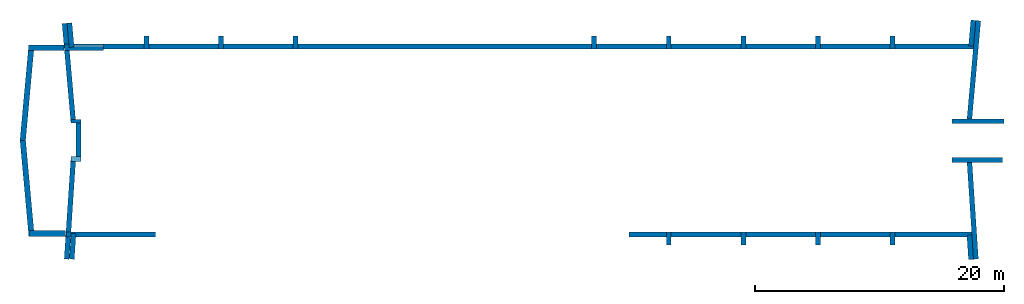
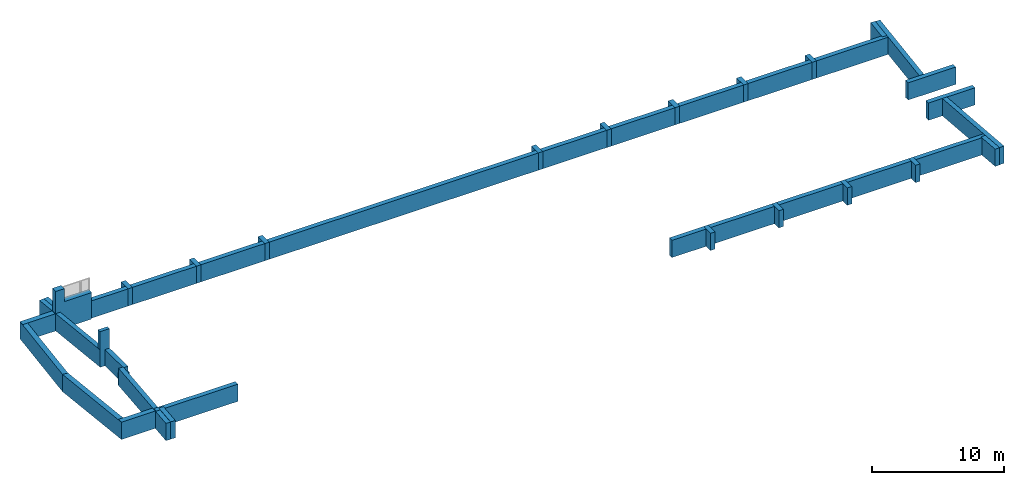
# One storey, part 1 of 2: 34 walls, 1 opening.
"""IFC2X3 building model written with IfcOpenShell, lengths in millimetres."""

from ifc_helpers import new_model, entity, si_unit, converted_unit, money_unit, direction, frame, origin_with_axes, place, context, subcontext, project, spatial, polyline, outline, extrude, material, layer, layer_set, layer_usage, type_object, element, save


model = new_model("IFC2X3")

# Units and contexts
model_context = context("Model", 3, precision=1e-05, world=origin_with_axes(), true_north=direction((0.0, 1.0)))
body_context = subcontext(model_context, "Body", "Model", "MODEL_VIEW")
ifc_project = project(units=[si_unit("LENGTHUNIT", "METRE", prefix="MILLI"), si_unit("AREAUNIT", "SQUARE_METRE"), si_unit("VOLUMEUNIT", "CUBIC_METRE"), converted_unit("PLANEANGLEUNIT", "DEGREE", entity("IfcPlaneAngleMeasure", 0.0174532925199), si_unit("PLANEANGLEUNIT", "RADIAN"), dimensions=[0, 0, 0, 0, 0, 0, 0]), si_unit("SOLIDANGLEUNIT", "STERADIAN"), money_unit("USD"), converted_unit("TIMEUNIT", "Year", entity("IfcTimeMeasure", 31556926.0), si_unit("TIMEUNIT", "SECOND"), dimensions=[0, 0, 0, 0, 0, 0, 0]), si_unit("MASSUNIT", "GRAM"), si_unit("THERMODYNAMICTEMPERATUREUNIT", "DEGREE_CELSIUS"), si_unit("LUMINOUSINTENSITYUNIT", "LUMEN")], contexts=[model_context])

# Site, building, storey
site_placement = place(None, origin_with_axes())
site = spatial("IfcSite", under=ifc_project, at=site_placement, Name="Site", CompositionType="ELEMENT")
building_placement = place(site_placement, origin_with_axes())
building = spatial("IfcBuilding", under=site, at=building_placement, Name="Building", CompositionType="ELEMENT")
storey_placement = place(building_placement, frame((0.0, 0.0, -5000.0), z_axis=(0.0, 0.0, 1.0), x_axis=(1.0, 0.0, 0.0)))
storey = spatial("IfcBuildingStorey", under=building, at=storey_placement, Name="Sokkel", CompositionType="ELEMENT", Elevation=-5000.0)

# Walls
ifc_material_1 = material(Name="Olemasolevad seinad tellis, uus viimistlus")
ifc_layer_1 = layer(ifc_material_1, 400.0, ventilated="UNKNOWN")
ifc_layer_set_1 = layer_set([ifc_layer_1], Name="Olemasolevad seinad tellis, uus viimistlus 400")
ifc_layer_usage_1 = layer_usage(ifc_layer_set_1, "AXIS2", "POSITIVE", 0.0)
wall_type_1 = type_object("IfcWallType", Name="Olemasolevad seinad tellis, uus viimistlus 400", PredefinedType="NOTDEFINED")
wall_1_placement = place(storey_placement, frame((67.0426161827, -5039.6041088, 0.0), z_axis=(0.0, 0.0, 1.0), x_axis=(0.0, 1.0, 0.0)))
element("IfcWallStandardCase", 1, at=wall_1_placement, inside=storey, type_object=wall_type_1, material=ifc_layer_usage_1, Name="VS1", context=body_context, shape_type="SweptSolid", body=[
    extrude(outline(polyline([(0.0, 0.0), (1057.40204125, 0.0), (1057.40204125, 400.0), (0.0, 400.0), (0.0, 0.0)])), origin_with_axes(), (0.0, 0.0, 1.0), 1600.0),
])
ifc_layer_usage_2 = layer_usage(ifc_layer_set_1, "AXIS2", "POSITIVE", 0.0)
wall_2_placement = place(storey_placement, frame((-47932.9573838, -5039.6041088, 0.0), z_axis=(0.0, 0.0, 1.0), x_axis=(0.0, 1.0, 0.0)))
element("IfcWallStandardCase", 2, at=wall_2_placement, inside=storey, type_object=wall_type_1, material=ifc_layer_usage_2, Name="VS1", context=body_context, shape_type="SweptSolid", body=[
    extrude(outline(polyline([(0.0, 0.0), (1057.40204125, 0.0), (1057.40204125, 400.0), (0.0, 400.0), (0.0, 0.0)])), origin_with_axes(), (0.0, 0.0, 1.0), 1600.0),
])
ifc_layer_usage_3 = layer_usage(ifc_layer_set_1, "AXIS2", "POSITIVE", 0.0)
wall_3_placement = place(storey_placement, frame((6067.04261618, -20796.6419407, 0.0), z_axis=(0.0, 0.0, 1.0), x_axis=(0.0, 1.0, 0.0)))
element("IfcWallStandardCase", 3, at=wall_3_placement, inside=storey, type_object=wall_type_1, material=ifc_layer_usage_3, Name="VS1", context=body_context, shape_type="SweptSolid", body=[
    extrude(outline(polyline([(0.0, 0.0), (1057.76625064, 0.0), (1057.76625064, 400.0), (0.0, 400.0), (0.0, 0.0)])), origin_with_axes(), (0.0, 0.0, 1.0), 1600.0),
])
ifc_layer_usage_4 = layer_usage(ifc_layer_set_1, "AXIS2", "POSITIVE", 0.0)
wall_4_placement = place(storey_placement, frame((-5932.95738382, -20796.6419407, 0.0), z_axis=(0.0, 0.0, 1.0), x_axis=(0.0, 1.0, 0.0)))
element("IfcWallStandardCase", 4, at=wall_4_placement, inside=storey, type_object=wall_type_1, material=ifc_layer_usage_4, Name="VS1", context=body_context, shape_type="SweptSolid", body=[
    extrude(outline(polyline([(0.0, 0.0), (1057.76625064, 0.0), (1057.76625064, 400.0), (0.0, 400.0), (0.0, 0.0)])), origin_with_axes(), (0.0, 0.0, 1.0), 1600.0),
])
ifc_layer_usage_5 = layer_usage(ifc_layer_set_1, "AXIS2", "POSITIVE", 0.0)
wall_5_placement = place(storey_placement, frame((67.0426161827, -20796.6419407, 0.0), z_axis=(0.0, 0.0, 1.0), x_axis=(0.0, 1.0, 0.0)))
element("IfcWallStandardCase", 5, at=wall_5_placement, inside=storey, type_object=wall_type_1, material=ifc_layer_usage_5, Name="VS1", context=body_context, shape_type="SweptSolid", body=[
    extrude(outline(polyline([(0.0, 0.0), (1057.76625064, 0.0), (1057.76625064, 400.0), (0.0, 400.0), (0.0, 0.0)])), origin_with_axes(), (0.0, 0.0, 1.0), 1600.0),
])
ifc_layer_usage_6 = layer_usage(ifc_layer_set_1, "AXIS2", "POSITIVE", 0.0)
wall_6_placement = place(storey_placement, frame((-5932.95738382, -5039.6041088, 0.0), z_axis=(0.0, 0.0, 1.0), x_axis=(0.0, 1.0, 0.0)))
element("IfcWallStandardCase", 6, at=wall_6_placement, inside=storey, type_object=wall_type_1, material=ifc_layer_usage_6, Name="VS1", context=body_context, shape_type="SweptSolid", body=[
    extrude(outline(polyline([(0.0, 0.0), (1057.40204125, 0.0), (1057.40204125, 400.0), (0.0, 400.0), (0.0, 0.0)])), origin_with_axes(), (0.0, 0.0, 1.0), 1600.0),
])
ifc_layer_usage_7 = layer_usage(ifc_layer_set_1, "AXIS2", "POSITIVE", 0.0)
wall_7_placement = place(storey_placement, frame((12067.0426162, -20796.6419407, 0.0), z_axis=(0.0, 0.0, 1.0), x_axis=(0.0, 1.0, 0.0)))
element("IfcWallStandardCase", 7, at=wall_7_placement, inside=storey, type_object=wall_type_1, material=ifc_layer_usage_7, Name="VS1", context=body_context, shape_type="SweptSolid", body=[
    extrude(outline(polyline([(0.0, 0.0), (1057.76625064, 0.0), (1057.76625064, 400.0), (0.0, 400.0), (0.0, 0.0)])), origin_with_axes(), (0.0, 0.0, 1.0), 1600.0),
])
ifc_layer_usage_8 = layer_usage(ifc_layer_set_1, "AXIS2", "POSITIVE", 0.0)
wall_8_placement = place(storey_placement, frame((6067.04261618, -5039.6041088, 0.0), z_axis=(0.0, 0.0, 1.0), x_axis=(0.0, 1.0, 0.0)))
element("IfcWallStandardCase", 8, at=wall_8_placement, inside=storey, type_object=wall_type_1, material=ifc_layer_usage_8, Name="VS1", context=body_context, shape_type="SweptSolid", body=[
    extrude(outline(polyline([(0.0, 0.0), (1057.40204125, 0.0), (1057.40204125, 400.0), (0.0, 400.0), (0.0, 0.0)])), origin_with_axes(), (0.0, 0.0, 1.0), 1600.0),
])
ifc_layer_usage_9 = layer_usage(ifc_layer_set_1, "AXIS2", "POSITIVE", 0.0)
wall_9_placement = place(storey_placement, frame((12067.0426162, -5039.6041088, 0.0), z_axis=(0.0, 0.0, 1.0), x_axis=(0.0, 1.0, 0.0)))
element("IfcWallStandardCase", 9, at=wall_9_placement, inside=storey, type_object=wall_type_1, material=ifc_layer_usage_9, Name="VS1", context=body_context, shape_type="SweptSolid", body=[
    extrude(outline(polyline([(0.0, 0.0), (1057.40204125, 0.0), (1057.40204125, 400.0), (0.0, 400.0), (0.0, 0.0)])), origin_with_axes(), (0.0, 0.0, 1.0), 1600.0),
])
ifc_layer_usage_10 = layer_usage(ifc_layer_set_1, "AXIS2", "POSITIVE", 0.0)
wall_10_placement = place(storey_placement, frame((-54209.8419994, -13787.3375674, 0.0), z_axis=(0.0, 0.0, 1.0), x_axis=(-0.0663534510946, -0.997796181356, 0.0)))
element("IfcWallStandardCase", 10, at=wall_10_placement, inside=storey, type_object=wall_type_1, material=ifc_layer_usage_10, Name="SS1", context=body_context, shape_type="SweptSolid", body=[
    extrude(outline(polyline([(0.0, 0.0), (8146.79169702, 0.0), (8146.79169702, 400.0), (0.0, 400.0), (0.0, 0.0)])), origin_with_axes(), (0.0, 0.0, 1.0), 1600.0),
])
ifc_layer_usage_11 = layer_usage(ifc_layer_set_1, "AXIS2", "POSITIVE", 0.0)
wall_11_placement = place(storey_placement, frame((17841.3876618, -20010.8935182, 0.0), z_axis=(0.0, 0.0, 1.0), x_axis=(0.0663534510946, -0.997796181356, 0.0)))
element("IfcWallStandardCase", 11, at=wall_11_placement, inside=storey, type_object=wall_type_1, material=ifc_layer_usage_11, Name="VS1", context=body_context, shape_type="SweptSolid", body=[
    extrude(outline(polyline([(0.0, 0.0), (1962.46339605, 0.0), (1962.46339605, 400.0), (0.0, 400.0), (0.0, 0.0)])), origin_with_axes(), (0.0, 0.0, 1.0), 1600.0),
])
ifc_layer_usage_12 = layer_usage(ifc_layer_set_1, "AXIS2", "POSITIVE", 0.0)
wall_12_placement = place(storey_placement, frame((-11932.9573838, -5039.6041088, 0.0), z_axis=(0.0, 0.0, 1.0), x_axis=(0.0, 1.0, 0.0)))
element("IfcWallStandardCase", 12, at=wall_12_placement, inside=storey, type_object=wall_type_1, material=ifc_layer_usage_12, Name="VS1", context=body_context, shape_type="SweptSolid", body=[
    extrude(outline(polyline([(0.0, 0.0), (1057.40204125, 0.0), (1057.40204125, 400.0), (0.0, 400.0), (0.0, 0.0)])), origin_with_axes(), (0.0, 0.0, 1.0), 1600.0),
])
ifc_layer_usage_13 = layer_usage(ifc_layer_set_1, "AXIS2", "POSITIVE", -400.0)
wall_13_placement = place(storey_placement, frame((-54346.8651468, -4903.23671069, 0.0), z_axis=(0.0, 0.0, 1.0), x_axis=(-0.0906330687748, 0.995884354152, 0.0)))
element("IfcWallStandardCase", 13, at=wall_13_placement, inside=storey, type_object=wall_type_1, material=ifc_layer_usage_13, Name="SS1", context=body_context, shape_type="SweptSolid", body=[
    extrude(outline(polyline([(0.0, -400.0), (1959.02298988, -400.0), (1959.02298988, 0.0), (0.0, 0.0), (0.0, -400.0)])), origin_with_axes(), (0.0, 0.0, 1.0), 1600.0),
])
ifc_layer_usage_14 = layer_usage(ifc_layer_set_1, "AXIS2", "POSITIVE", -400.0)
wall_14_placement = place(storey_placement, frame((-53392.226831, -10997.6526712, 0.0), z_axis=(0.0, 0.0, 1.0), x_axis=(0.0, -1.0, 0.0)))
element("IfcWallStandardCase", 14, at=wall_14_placement, inside=storey, type_object=wall_type_1, material=ifc_layer_usage_14, Name="SS1", context=body_context, shape_type="SweptSolid", body=[
    extrude(outline(polyline([(0.0, -400.0), (2789.68489615, -400.0), (2789.68489615, 0.0), (0.0, 0.0), (0.0, -400.0)])), origin_with_axes(), (0.0, 0.0, 1.0), 1500.0),
])
ifc_layer_usage_15 = layer_usage(ifc_layer_set_1, "AXIS2", "POSITIVE", 0.0)
wall_15_placement = place(storey_placement, frame((-35932.9573838, -5039.6041088, 0.0), z_axis=(0.0, 0.0, 1.0), x_axis=(0.0, 1.0, 0.0)))
element("IfcWallStandardCase", 15, at=wall_15_placement, inside=storey, type_object=wall_type_1, material=ifc_layer_usage_15, Name="VS1", context=body_context, shape_type="SweptSolid", body=[
    extrude(outline(polyline([(0.0, 0.0), (1057.40204125, 0.0), (1057.40204125, 400.0), (0.0, 400.0), (0.0, 0.0)])), origin_with_axes(), (0.0, 0.0, 1.0), 1600.0),
])
ifc_layer_usage_16 = layer_usage(ifc_layer_set_1, "AXIS2", "POSITIVE", -400.0)
wall_16_placement = place(storey_placement, frame((-54209.4090551, -10997.6526712, 0.0), z_axis=(0.0, 0.0, 1.0), x_axis=(-0.088511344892, 0.996075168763, 0.0)))
element("IfcWallStandardCase", 16, at=wall_16_placement, inside=storey, type_object=wall_type_1, material=ifc_layer_usage_16, Name="SS1", context=body_context, shape_type="SweptSolid", body=[
    extrude(outline(polyline([(0.0, -400.0), (8039.47702976, -400.0), (8039.47702976, 0.0), (0.0, 0.0), (0.0, -400.0)])), origin_with_axes(), (0.0, 0.0, 1.0), 1600.0),
])
ifc_layer_usage_17 = layer_usage(ifc_layer_set_1, "AXIS2", "POSITIVE", 0.0)
wall_17_placement = place(storey_placement, frame((-41932.9573838, -5039.6041088, 0.0), z_axis=(0.0, 0.0, 1.0), x_axis=(0.0, 1.0, 0.0)))
element("IfcWallStandardCase", 17, at=wall_17_placement, inside=storey, type_object=wall_type_1, material=ifc_layer_usage_17, Name="VS1", context=body_context, shape_type="SweptSolid", body=[
    extrude(outline(polyline([(0.0, 0.0), (1057.40204125, 0.0), (1057.40204125, 400.0), (0.0, 400.0), (0.0, 0.0)])), origin_with_axes(), (0.0, 0.0, 1.0), 1600.0),
])
ifc_layer_usage_18 = layer_usage(ifc_layer_set_1, "AXIS2", "POSITIVE", -400.0)
wall_18_placement = place(storey_placement, frame((17976.4243036, -4776.56621795, 0.0), z_axis=(0.0, 0.0, 1.0), x_axis=(0.0895981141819, 0.995978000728, 0.0)))
element("IfcWallStandardCase", 18, at=wall_18_placement, inside=storey, type_object=wall_type_1, material=ifc_layer_usage_18, Name="VS1", context=body_context, shape_type="SweptSolid", body=[
    extrude(outline(polyline([(0.0, -400.0), (2088.20851153, -400.0), (2088.20851153, 0.0), (0.0, 0.0), (0.0, -400.0)])), origin_with_axes(), (0.0, 0.0, 1.0), 1600.0),
])
ifc_layer_usage_19 = layer_usage(ifc_layer_set_1, "AXIS2", "POSITIVE", 0.0)
wall_19_placement = place(storey_placement, frame((20713.922287, -13739.2398994, 0.0), z_axis=(0.0, 0.0, 1.0), x_axis=(-1.0, 0.0, 0.0)))
element("IfcWallStandardCase", 19, at=wall_19_placement, inside=storey, type_object=wall_type_1, material=ifc_layer_usage_19, Name="VS1", context=body_context, shape_type="SweptSolid", body=[
    extrude(outline(polyline([(0.0, 0.0), (4075.77793551, 0.0), (4075.77793551, 400.0), (0.0, 400.0), (0.0, 0.0)])), origin_with_axes(), (0.0, 0.0, 1.0), 1600.0),
])
ifc_layer_usage_20 = layer_usage(ifc_layer_set_1, "AXIS2", "POSITIVE", -400.0)
wall_20_placement = place(storey_placement, frame((-54201.4746311, -13661.5124894, 0.0), z_axis=(0.0, 0.0, 1.0), x_axis=(1.0, 0.0, 0.0)))
element("IfcWallStandardCase", 20, at=wall_20_placement, inside=storey, type_object=wall_type_1, material=ifc_layer_usage_20, Name="VS1", ObjectType="OLEMASOLEV VÄLISSEIN", context=body_context, shape_type="SweptSolid", body=[
    extrude(outline(polyline([(0.0, -400.0), (809.24780005, -400.0), (809.24780005, 0.0), (0.0, 0.0), (0.0, -400.0)])), origin_with_axes(), (0.0, 0.0, 1.0), 1100.0),
])
ifc_layer_usage_21 = layer_usage(ifc_layer_set_1, "AXIS2", "POSITIVE", -400.0)
wall_21_placement = place(storey_placement, frame((18229.2485928, -13787.3375674, 0.0), z_axis=(0.0, 0.0, 1.0), x_axis=(0.0663534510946, -0.997796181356, 0.0)))
element("IfcWallStandardCase", 21, at=wall_21_placement, inside=storey, type_object=wall_type_1, material=ifc_layer_usage_21, Name="VS1", context=body_context, shape_type="SweptSolid", body=[
    extrude(outline(polyline([(0.0, -400.0), (8146.79169702, -400.0), (8146.79169702, 0.0), (0.0, 0.0), (0.0, -400.0)])), origin_with_axes(), (0.0, 0.0, 1.0), 1600.0),
])
ifc_layer_usage_22 = layer_usage(ifc_layer_set_1, "AXIS2", "POSITIVE", 0.0)
wall_22_placement = place(storey_placement, frame((18220.0063762, -10997.6526712, 0.0), z_axis=(0.0, 0.0, 1.0), x_axis=(0.0895981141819, 0.995978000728, 0.0)))
element("IfcWallStandardCase", 22, at=wall_22_placement, inside=storey, type_object=wall_type_1, material=ifc_layer_usage_22, Name="VS1", context=body_context, shape_type="SweptSolid", body=[
    extrude(outline(polyline([(0.0, 0.0), (8262.44926526, 0.0), (8262.44926526, 400.0), (0.0, 400.0), (0.0, 0.0)])), origin_with_axes(), (0.0, 0.0, 1.0), 1600.0),
])
ifc_layer_usage_23 = layer_usage(ifc_layer_set_1, "AXIS2", "POSITIVE", 0.0)
wall_23_placement = place(storey_placement, frame((-51569.3388124, -5039.6041088, 0.0), z_axis=(0.0, 0.0, 1.0), x_axis=(1.0, 0.0, 0.0)))
element("IfcWallStandardCase", 23, at=wall_23_placement, inside=storey, type_object=wall_type_1, material=ifc_layer_usage_23, Name="VS1", context=body_context, shape_type="SweptSolid", body=[
    extrude(outline(polyline([(0.0, 0.0), (3232.85072707, 0.0), (3232.85072707, 400.0), (0.0, 400.0), (0.0, 0.0)])), origin_with_axes(), (0.0, 0.0, 1.0), 1600.0),
])
ifc_layer_usage_24 = layer_usage(ifc_layer_set_1, "AXIS2", "POSITIVE", 0.0)
wall_24_placement = place(storey_placement, frame((-48393.8274049, -5039.6041088, 0.0), z_axis=(0.0, 0.0, 1.0), x_axis=(1.0, 0.0, 0.0)))
element("IfcWallStandardCase", 24, at=wall_24_placement, inside=storey, type_object=wall_type_1, material=ifc_layer_usage_24, Name="VS1", context=body_context, shape_type="SweptSolid", body=[
    extrude(outline(polyline([(0.0, 0.0), (67149.8194303, 0.0), (67149.8194303, 400.0), (0.0, 400.0), (0.0, 0.0)])), origin_with_axes(), (0.0, 0.0, 1.0), 1600.0),
])
ifc_layer_usage_25 = layer_usage(ifc_layer_set_1, "AXIS2", "POSITIVE", 0.0)
wall_25_placement = place(storey_placement, frame((-54196.2351718, -19862.6505015, 0.0), z_axis=(0.0, 0.0, 1.0), x_axis=(-0.0663534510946, -0.997796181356, 0.0)))
element("IfcWallStandardCase", 25, at=wall_25_placement, inside=storey, type_object=wall_type_1, material=ifc_layer_usage_25, Name="SS1", context=body_context, shape_type="SweptSolid", body=[
    extrude(outline(polyline([(0.0, 0.0), (2058.06030308, 0.0), (2058.06030308, 400.0), (0.0, 400.0), (0.0, 0.0)])), origin_with_axes(), (0.0, 0.0, 1.0), 1600.0),
])
ifc_layer_usage_26 = layer_usage(ifc_layer_set_1, "AXIS2", "POSITIVE", -400.0)
wall_26_placement = place(storey_placement, frame((-9331.84569337, -19738.87569, 0.0), z_axis=(0.0, 0.0, 1.0), x_axis=(1.0, 0.0, 0.0)))
element("IfcWallStandardCase", 26, at=wall_26_placement, inside=storey, type_object=wall_type_1, material=ifc_layer_usage_26, Name="VS1", context=body_context, shape_type="SweptSolid", body=[
    extrude(outline(polyline([(0.0, -400.0), (27956.8716013, -400.0), (27956.8716013, 0.0), (0.0, 0.0), (0.0, -400.0)])), origin_with_axes(), (0.0, 0.0, 1.0), 1600.0),
])
ifc_layer_usage_27 = layer_usage(ifc_layer_set_1, "AXIS2", "POSITIVE", -400.0)
wall_27_placement = place(storey_placement, frame((-54548.304215, -19739.2398994, 0.0), z_axis=(0.0, 0.0, 1.0), x_axis=(1.0, 0.0, 0.0)))
element("IfcWallStandardCase", 27, at=wall_27_placement, inside=storey, type_object=wall_type_1, material=ifc_layer_usage_27, Name="VS1", context=body_context, shape_type="SweptSolid", body=[
    extrude(outline(polyline([(0.0, -400.0), (7153.83557515, -400.0), (7153.83557515, 0.0), (0.0, 0.0), (0.0, -400.0)])), origin_with_axes(), (0.0, 0.0, 1.0), 1600.0),
])
ifc_layer_usage_28 = layer_usage(ifc_layer_set_1, "AXIS2", "POSITIVE", -400.0)
wall_28_placement = place(storey_placement, frame((20826.9209515, -11039.6041088, 0.0), z_axis=(0.0, 0.0, 1.0), x_axis=(-1.0, 0.0, 0.0)))
element("IfcWallStandardCase", 28, at=wall_28_placement, inside=storey, type_object=wall_type_1, material=ifc_layer_usage_28, Name="VS1", context=body_context, shape_type="SweptSolid", body=[
    extrude(outline(polyline([(0.0, -400.0), (4188.77660001, -400.0), (4188.77660001, 0.0), (0.0, 0.0), (0.0, -400.0)])), origin_with_axes(), (0.0, 0.0, 1.0), 1600.0),
])
ifc_layer_2 = layer(ifc_material_1, 300.0, ventilated="UNKNOWN")
ifc_layer_set_2 = layer_set([ifc_layer_2], Name="Olemasolevad seinad tellis, uus viimistlus 300")
ifc_layer_usage_29 = layer_usage(ifc_layer_set_2, "AXIS2", "POSITIVE", 0.0)
wall_type_2 = type_object("IfcWallType", Name="Olemasolevad seinad tellis, uus viimistlus 300", PredefinedType="NOTDEFINED")
wall_29_placement = place(storey_placement, frame((-54209.4090551, -10997.6526712, 0.0), z_axis=(0.0, 0.0, 1.0), x_axis=(1.0, 0.0, 0.0)))
element("IfcWallStandardCase", 29, at=wall_29_placement, inside=storey, type_object=wall_type_2, material=ifc_layer_usage_29, Name="VS1", ObjectType="VS1", context=body_context, shape_type="SweptSolid", body=[
    extrude(outline(polyline([(0.0, 0.0), (817.182224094, 0.0), (817.182224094, 300.0), (0.0, 300.0), (0.0, 0.0)])), origin_with_axes(), (0.0, 0.0, 1.0), 3300.0),
])
ifc_material_2 = material(Name="Betoonvalu")
ifc_layer_3 = layer(ifc_material_2, 450.0, ventilated="UNKNOWN")
ifc_layer_set_3 = layer_set([ifc_layer_3], Name="Betoonvalu 450")
ifc_layer_usage_30 = layer_usage(ifc_layer_set_3, "AXIS2", "POSITIVE", -450.0)
wall_type_3 = type_object("IfcWallType", Name="Betoonvalu 450", PredefinedType="NOTDEFINED")
wall_30_placement = place(storey_placement, frame((-57602.211459, -4689.6041088, 0.0), z_axis=(0.0, 0.0, 1.0), x_axis=(1.0, 0.0, 0.0)))
element("IfcWallStandardCase", 30, at=wall_30_placement, inside=storey, type_object=wall_type_3, material=ifc_layer_usage_30, Name="VSS1", context=body_context, shape_type="SweptSolid", body=[
    extrude(outline(polyline([(0.0, -450.0), (2834.13856827, -450.0), (2834.13856827, 0.0), (0.0, 0.0), (0.0, -450.0)])), origin_with_axes(), (0.0, 0.0, 1.0), 1600.0),
])
ifc_layer_usage_31 = layer_usage(ifc_layer_set_3, "AXIS2", "POSITIVE", 0.0)
wall_31_placement = place(storey_placement, frame((-57597.6401026, -20090.8461459, 0.0), z_axis=(0.0, 0.0, 1.0), x_axis=(1.0, 0.0, 0.0)))
element("IfcWallStandardCase", 31, at=wall_31_placement, inside=storey, type_object=wall_type_3, material=ifc_layer_usage_31, Name="VSS1", context=body_context, shape_type="SweptSolid", body=[
    extrude(outline(polyline([(0.0, 0.0), (2968.61475099, 0.0), (2968.61475099, 450.0), (0.0, 450.0), (0.0, 0.0)])), origin_with_axes(), (0.0, 0.0, 1.0), 1600.0),
])
ifc_layer_usage_32 = layer_usage(ifc_layer_set_3, "AXIS2", "POSITIVE", 0.0)
wall_32_placement = place(storey_placement, frame((-57602.211459, -4689.6041088, 0.0), z_axis=(0.0, 0.0, 1.0), x_axis=(-0.0910473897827, -0.995846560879, 0.0)))
element("IfcWallStandardCase", 32, at=wall_32_placement, inside=storey, type_object=wall_type_3, material=ifc_layer_usage_32, Name="VSS1", context=body_context, shape_type="SweptSolid", body=[
    extrude(outline(polyline([(0.0, 0.0), (7707.63420798, 0.0), (7707.63420798, 450.0), (0.0, 450.0), (0.0, 0.0)])), origin_with_axes(), (0.0, 0.0, 1.0), 1600.0),
])
ifc_layer_usage_33 = layer_usage(ifc_layer_set_3, "AXIS2", "POSITIVE", -450.0)
wall_33_placement = place(storey_placement, frame((-57597.6401026, -20090.8461459, 0.0), z_axis=(0.0, 0.0, 1.0), x_axis=(-0.0910473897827, 0.995846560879, 0.0)))
element("IfcWallStandardCase", 33, at=wall_33_placement, inside=storey, type_object=wall_type_3, material=ifc_layer_usage_33, Name="VSS1", ObjectType="VSS1", context=body_context, shape_type="SweptSolid", body=[
    extrude(outline(polyline([(0.0, -450.0), (7757.84274608, -450.0), (7757.84274608, 0.0), (0.0, 0.0), (0.0, -450.0)])), origin_with_axes(), (0.0, 0.0, 1.0), 1600.0),
])

# Wall, opening
ifc_layer_4 = layer(ifc_material_1, 500.0, ventilated="UNKNOWN")
ifc_layer_set_4 = layer_set([ifc_layer_4], Name="Olemasolevad seinad tellis, uus viimistlus 500")
ifc_layer_usage_34 = layer_usage(ifc_layer_set_4, "AXIS2", "POSITIVE", -100.0)
wall_type_4 = type_object("IfcWallType", Name="Olemasolevad seinad tellis, uus viimistlus 500", PredefinedType="NOTDEFINED")
wall_34_placement = place(storey_placement, frame((-54736.5854321, -5039.6041088, 0.0), z_axis=(0.0, 0.0, 1.0), x_axis=(1.0, 0.0, 0.0)))
wall_34 = element("IfcWallStandardCase", 34, at=wall_34_placement, inside=storey, type_object=wall_type_4, material=ifc_layer_usage_34, Name="VS1", ObjectType="VS1", context=body_context, shape_type="SweptSolid", body=[
    extrude(outline(polyline([(0.0, -100.0), (3167.24661967, -100.0), (3167.24661967, 400.0), (0.0, 400.0), (0.0, -100.0)])), origin_with_axes(), (0.0, 0.0, 1.0), 3650.0),
])
opening_placement = place(wall_34_placement, frame((1967.24661967, 0.0, 2460.0), z_axis=(0.0, 0.0, 1.0), x_axis=(1.0, 0.0, 0.0)))
element("IfcOpeningElement", 35, at=opening_placement, cuts=wall_34, Name="A2", context=body_context, shape_type="SweptSolid", body=[
    extrude(outline(polyline([(-1200.0, 1200.0), (-1200.0, 0.0), (1200.0, 0.0), (1200.0, 1200.0), (-1200.0, 1200.0)])), frame((0.0, 250.0, 0.0), z_axis=(0.0, -1.0, 0.0), x_axis=(1.0, 0.0, 0.0)), (0.0, 0.0, 1.0), 850.0),
    extrude(outline(polyline([(-1200.0, 0.0), (-1200.0, -1200.0), (1200.0, -1200.0), (1200.0, 0.0), (-1200.0, 0.0)])), frame((0.0, 250.0, 0.0), z_axis=(0.0, 1.0, 0.0), x_axis=(1.0, 0.0, 0.0)), (0.0, 0.0, 1.0), 650.0),
])

save(model, "model.ifc")
